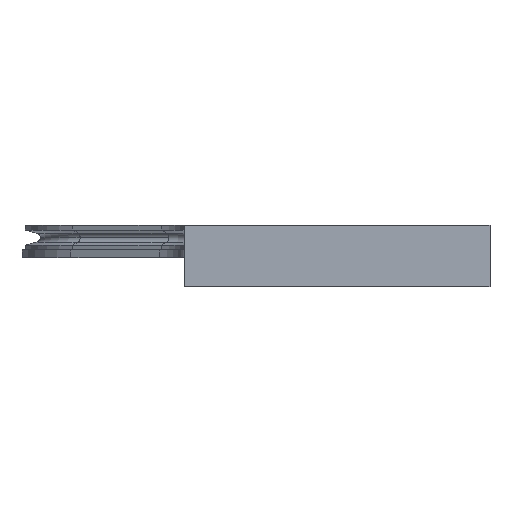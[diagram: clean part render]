
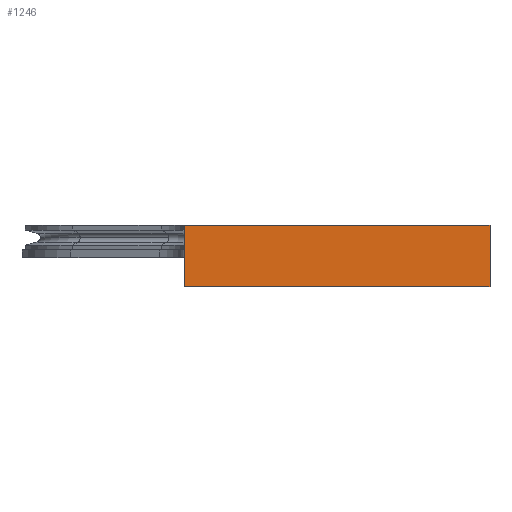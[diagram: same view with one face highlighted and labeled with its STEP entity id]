
A CAD part, left-side view. The second image highlights one B-rep face of the part: STEP entity #1246.
In plain terms, the highlighted planar face has unit normal (-1, 0, 0).
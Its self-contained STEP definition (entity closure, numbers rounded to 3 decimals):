
#348 = VECTOR ( 'NONE', #1541, 1000. ) ;
#409 = DIRECTION ( 'NONE',  ( 1., 0., 0. ) ) ;
#421 = CARTESIAN_POINT ( 'NONE',  ( -170., 22., -5. ) ) ;
#712 = AXIS2_PLACEMENT_3D ( 'NONE', #4338, #409, #1909 ) ;
#903 = CARTESIAN_POINT ( 'NONE',  ( -170., 22., 5. ) ) ;
#910 = FACE_OUTER_BOUND ( 'NONE', #5243, .T. ) ;
#1246 = ADVANCED_FACE ( 'NONE', ( #910 ), #1843, .F. ) ;
#1541 = DIRECTION ( 'NONE',  ( 0., 0., -1. ) ) ;
#1630 = LINE ( 'NONE', #6083, #5080 ) ;
#1637 = CARTESIAN_POINT ( 'NONE',  ( -170., 22., 5. ) ) ;
#1647 = ORIENTED_EDGE ( 'NONE', *, *, #6346, .T. ) ;
#1654 = CARTESIAN_POINT ( 'NONE',  ( -170., -28., 5. ) ) ;
#1843 = PLANE ( 'NONE',  #712 ) ;
#1909 = DIRECTION ( 'NONE',  ( 0., 0., 1. ) ) ;
#1920 = DIRECTION ( 'NONE',  ( 0., -1., 0. ) ) ;
#2478 = VERTEX_POINT ( 'NONE', #3594 ) ;
#2490 = ORIENTED_EDGE ( 'NONE', *, *, #5021, .T. ) ;
#2534 = EDGE_CURVE ( 'NONE', #5117, #5668, #1630, .T. ) ;
#2859 = VERTEX_POINT ( 'NONE', #4219 ) ;
#3594 = CARTESIAN_POINT ( 'NONE',  ( -170., -28., -5. ) ) ;
#3631 = DIRECTION ( 'NONE',  ( 0., -1., 0. ) ) ;
#4050 = LINE ( 'NONE', #903, #348 ) ;
#4055 = VECTOR ( 'NONE', #1920, 1000. ) ;
#4153 = EDGE_CURVE ( 'NONE', #5668, #2478, #6365, .T. ) ;
#4219 = CARTESIAN_POINT ( 'NONE',  ( -170., 22., -5. ) ) ;
#4338 = CARTESIAN_POINT ( 'NONE',  ( -170., 22., 5. ) ) ;
#4910 = ORIENTED_EDGE ( 'NONE', *, *, #2534, .F. ) ;
#4939 = LINE ( 'NONE', #421, #4055 ) ;
#4953 = CARTESIAN_POINT ( 'NONE',  ( -170., -28., 5. ) ) ;
#5021 = EDGE_CURVE ( 'NONE', #5117, #2859, #4050, .T. ) ;
#5080 = VECTOR ( 'NONE', #3631, 1000. ) ;
#5117 = VERTEX_POINT ( 'NONE', #1637 ) ;
#5243 = EDGE_LOOP ( 'NONE', ( #1647, #6065, #4910, #2490 ) ) ;
#5492 = DIRECTION ( 'NONE',  ( 0., 0., -1. ) ) ;
#5668 = VERTEX_POINT ( 'NONE', #1654 ) ;
#6065 = ORIENTED_EDGE ( 'NONE', *, *, #4153, .F. ) ;
#6083 = CARTESIAN_POINT ( 'NONE',  ( -170., 22., 5. ) ) ;
#6222 = VECTOR ( 'NONE', #5492, 1000. ) ;
#6346 = EDGE_CURVE ( 'NONE', #2859, #2478, #4939, .T. ) ;
#6365 = LINE ( 'NONE', #4953, #6222 ) ;
